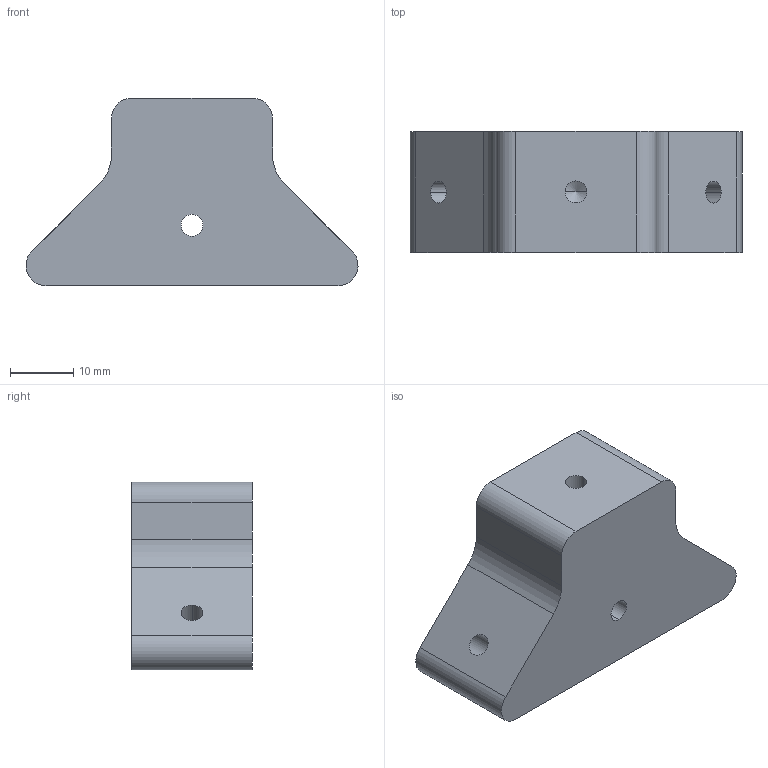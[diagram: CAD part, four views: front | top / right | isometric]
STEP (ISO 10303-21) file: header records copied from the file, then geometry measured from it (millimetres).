
FILE_DESCRIPTION (( 'STEP AP203' ), '1' );
FILE_NAME ('RM-.5PULTRUDED-CM.step', '2019-09-11T18:24:34', ( 'ydmin' ), ( '' ), 'SwSTEP 2.0', 'SolidWorks 2017', '' );
FILE_SCHEMA (( 'CONFIG_CONTROL_DESIGN' ));
Length unit declared in the file: inch
Products named in the file (1): RM-.5PULTRUDED-CM
Bounding box: 52.33 x 19.05 x 29.58 mm (x, y, z)
Volume: 15471.1 mm3; surface area: 5442.3 mm2
Topology: 1 solids, 1 shells, 33 faces, 87 edges, 53 vertices
Faces by surface type: cylinder 16, plane 11, cone 6
Entity records: 1066 total; most frequent: DIRECTION 181, CARTESIAN_POINT 168, ORIENTED_EDGE 162, EDGE_CURVE 81, AXIS2_PLACEMENT_3D 66, VERTEX_POINT 53, VECTOR 49, LINE 49
